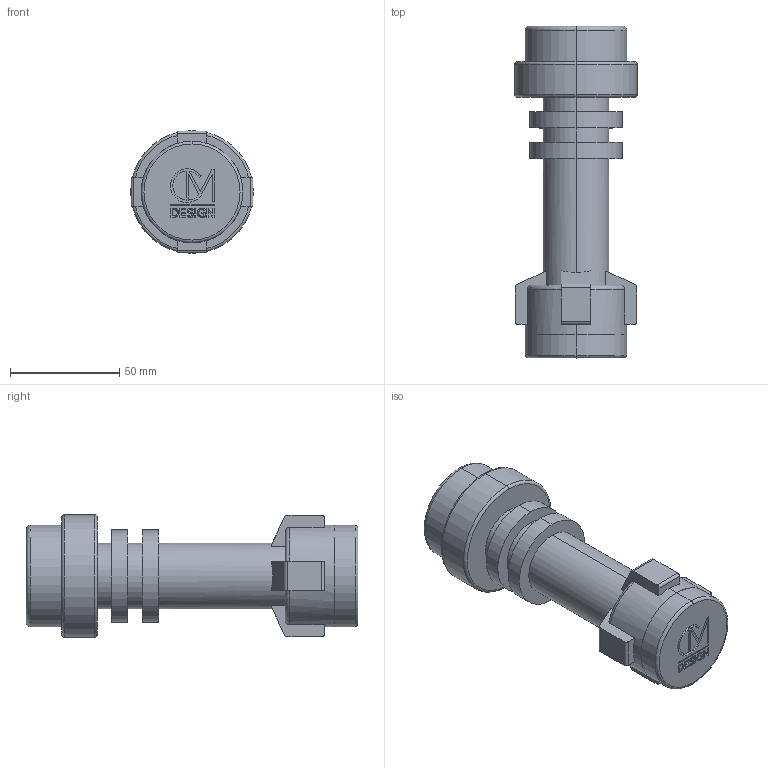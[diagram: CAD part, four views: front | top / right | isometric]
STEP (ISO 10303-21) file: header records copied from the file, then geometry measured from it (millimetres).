
FILE_DESCRIPTION (( 'STEP AP214' ), '1' );
FILE_NAME ('Lego Light Saber Collapsed.STEP', '2022-01-31T00:29:01', ( '' ), ( '' ), 'SwSTEP 2.0', 'SolidWorks 2020', '' );
FILE_SCHEMA (( 'AUTOMOTIVE_DESIGN' ));
Length unit declared in the file: inch
Products named in the file (1): Lego Light Saber Collapsed
Bounding box: 56.1 x 151.7 x 56.1 mm (x, y, z)
Volume: 132620.8 mm3; surface area: 105123.1 mm2
Topology: 5 solids, 5 shells, 288 faces, 758 edges, 504 vertices
Faces by surface type: plane 119, bspline 108, cylinder 35, cone 14, torus 12
Entity records: 14759 total; most frequent: CARTESIAN_POINT 8270, ORIENTED_EDGE 1510, DIRECTION 994, EDGE_CURVE 755, VERTEX_POINT 498, VECTOR 392, LINE 392, EDGE_LOOP 315
